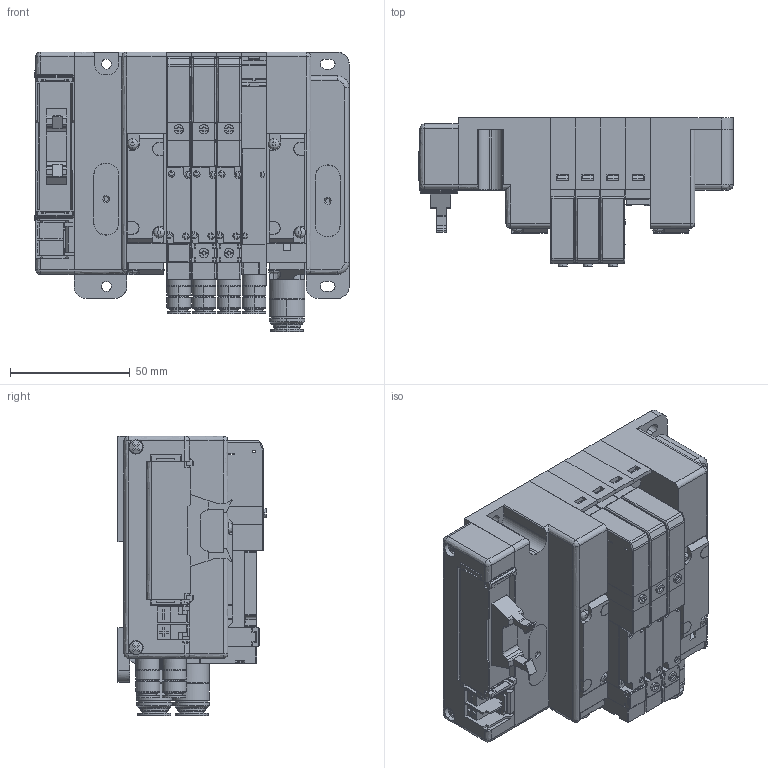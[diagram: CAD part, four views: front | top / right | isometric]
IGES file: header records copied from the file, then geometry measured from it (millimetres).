
Start section: ------------------------------------------------------------------------
Global section: file name: D:\ICADMX\tmp\trans3d_spg\CVICAD02.2536.F10M4XPJ-JR-F10x_14558.igs; native system: spGate; preprocessor: ver12.6.6; author: Unknown; organization: Unknown; date: 200901.145520; units: millimetre
Bounding box: 131.4 x 62.1 x 117 mm (x, y, z)
Volume: 487280.8 mm3; surface area: 150497.2 mm2
Topology: 40 solids, 40 shells, 3692 faces, 9945 edges, 6880 vertices
Faces by surface type: bspline 3692
